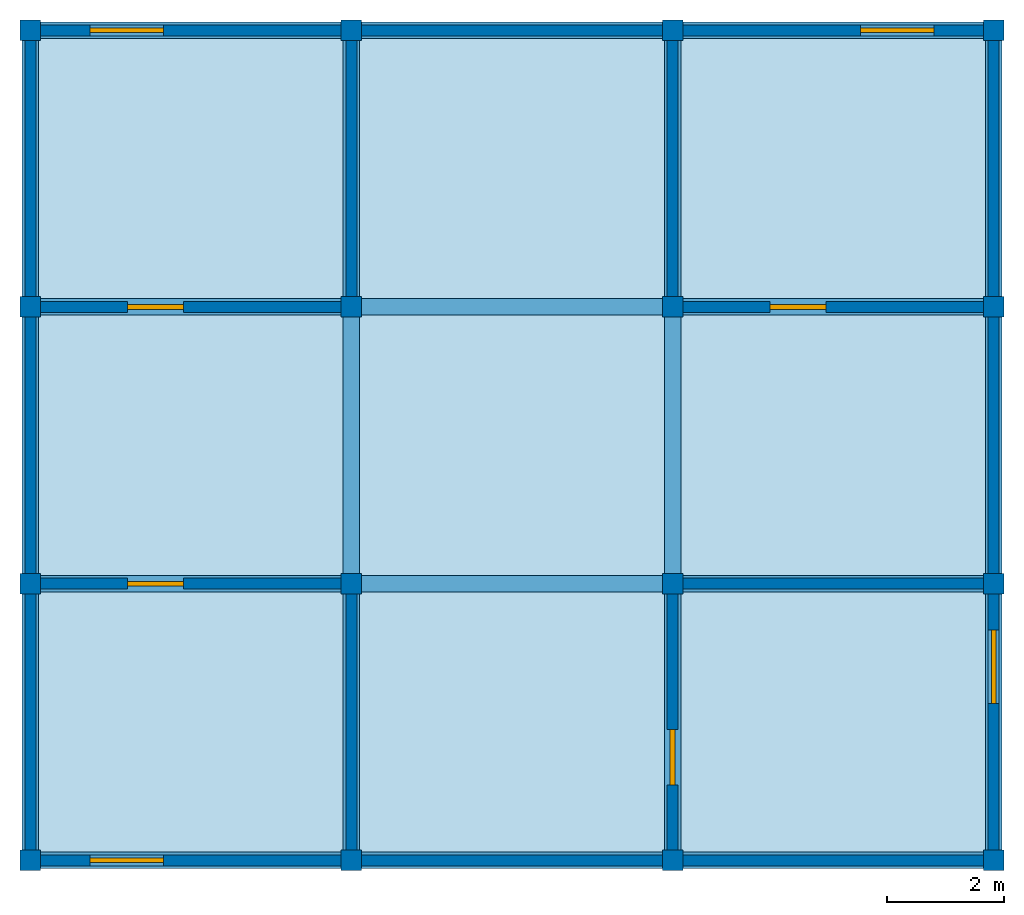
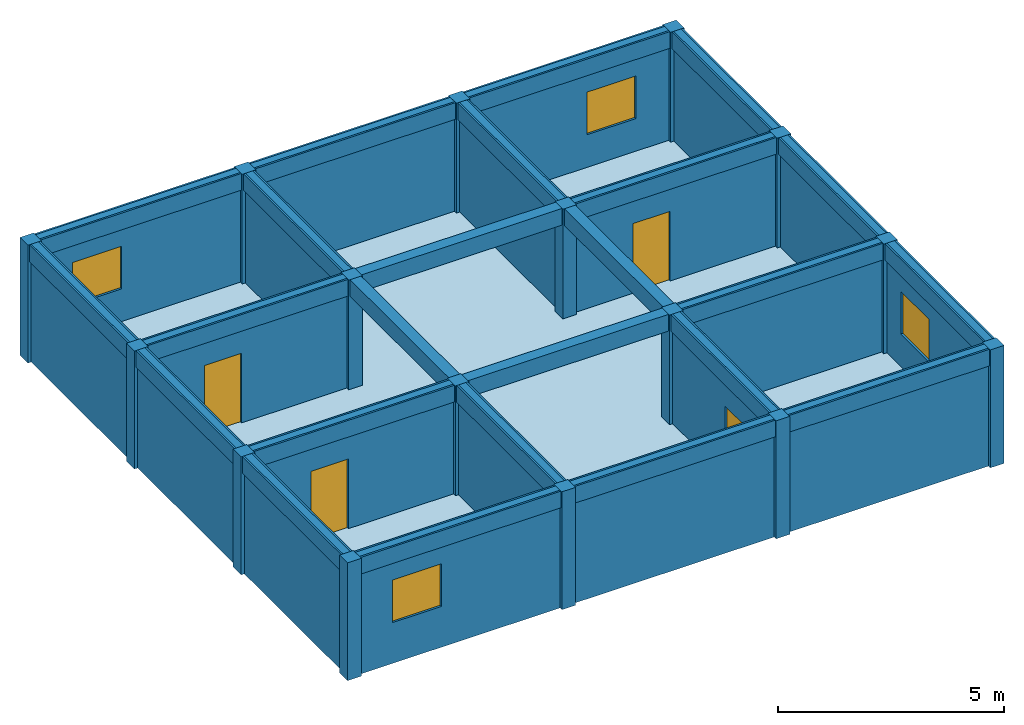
# One storey: 24 beams, 20 walls, 16 columns, 4 doors, 4 windows, 1 slab, 8 openings.
"""IFC4X3 building model written with IfcOpenShell, lengths in metres."""

from ifc_helpers import new_model, si_unit, frame, origin_with_axes, origin_2d, place, context, project, spatial, rectangle, extrude, material, element, fill, save


model = new_model("IFC4X3")

# Units and contexts
model_context = context("Model", 3, precision=1e-05, world=origin_with_axes())
ifc_project = project(units=[si_unit("LENGTHUNIT", "METRE"), si_unit("AREAUNIT", "SQUARE_METRE"), si_unit("VOLUMEUNIT", "CUBIC_METRE")], contexts=[model_context])

# Site, building, storey
site = spatial("IfcSite", under=ifc_project, Name="Antofagasta Parcel", CompositionType="ELEMENT")
building = spatial("IfcBuilding", under=site, Name="Nexo Block", CompositionType="ELEMENT")
storey = spatial("IfcBuildingStorey", under=building, Name="Level 12", CompositionType="ELEMENT", Elevation=34.99)

# Columns
ifc_material_1 = material(Name="Timber")
column_1_placement = place(None, frame((-8.2, -7.065, 34.989), z_axis=(0.0, 0.0, 1.0), x_axis=(1.0, 0.0, 0.0)))
element("IfcColumn", 1, at=column_1_placement, inside=storey, material=ifc_material_1, Name="Column 12.1", ObjectType="Structural Column", PredefinedType="USERDEFINED", context=model_context, shape_type="SweptSolid", body=[
    extrude(rectangle(XDim=0.35, YDim=0.35, at=origin_2d()), origin_with_axes(), (0.0, 0.0, 1.0), 3.181),
])
column_2_placement = place(None, frame((-8.2, -2.355, 34.989), z_axis=(0.0, 0.0, 1.0), x_axis=(1.0, 0.0, 0.0)))
element("IfcColumn", 2, at=column_2_placement, inside=storey, material=ifc_material_1, Name="Column 12.2", ObjectType="Facade Column", PredefinedType="COLUMN", context=model_context, shape_type="SweptSolid", body=[
    extrude(rectangle(XDim=0.35, YDim=0.35, at=origin_2d()), origin_with_axes(), (0.0, 0.0, 1.0), 3.181),
])
column_3_placement = place(None, frame((-8.2, 2.355, 34.989), z_axis=(0.0, 0.0, 1.0), x_axis=(1.0, 0.0, 0.0)))
element("IfcColumn", 3, at=column_3_placement, inside=storey, material=ifc_material_1, Name="Column 12.3", ObjectType="Structural Column", PredefinedType="NOTDEFINED", context=model_context, shape_type="SweptSolid", body=[
    extrude(rectangle(XDim=0.35, YDim=0.35, at=origin_2d()), origin_with_axes(), (0.0, 0.0, 1.0), 3.181),
])
column_4_placement = place(None, frame((-8.2, 7.065, 34.989), z_axis=(0.0, 0.0, 1.0), x_axis=(1.0, 0.0, 0.0)))
element("IfcColumn", 4, at=column_4_placement, inside=storey, material=ifc_material_1, Name="Column 12.4", ObjectType="Facade Column", PredefinedType="PILASTER", context=model_context, shape_type="SweptSolid", body=[
    extrude(rectangle(XDim=0.35, YDim=0.35, at=origin_2d()), origin_with_axes(), (0.0, 0.0, 1.0), 3.181),
])
column_5_placement = place(None, frame((-2.733, -7.065, 34.989), z_axis=(0.0, 0.0, 1.0), x_axis=(1.0, 0.0, 0.0)))
element("IfcColumn", 5, at=column_5_placement, inside=storey, material=ifc_material_1, Name="Column 12.5", ObjectType="Core Column", PredefinedType="PILASTER", context=model_context, shape_type="SweptSolid", body=[
    extrude(rectangle(XDim=0.35, YDim=0.35, at=origin_2d()), origin_with_axes(), (0.0, 0.0, 1.0), 3.181),
])
column_6_placement = place(None, frame((-2.733, -2.355, 34.989), z_axis=(0.0, 0.0, 1.0), x_axis=(1.0, 0.0, 0.0)))
element("IfcColumn", 6, at=column_6_placement, inside=storey, material=ifc_material_1, Name="Column 12.6", ObjectType="Core Column", PredefinedType="USERDEFINED", context=model_context, shape_type="SweptSolid", body=[
    extrude(rectangle(XDim=0.35, YDim=0.35, at=origin_2d()), origin_with_axes(), (0.0, 0.0, 1.0), 3.181),
])
column_7_placement = place(None, frame((-2.733, 2.355, 34.989), z_axis=(0.0, 0.0, 1.0), x_axis=(1.0, 0.0, 0.0)))
element("IfcColumn", 7, at=column_7_placement, inside=storey, material=ifc_material_1, Name="Column 12.7", ObjectType="Core Column", PredefinedType="PILASTER", context=model_context, shape_type="SweptSolid", body=[
    extrude(rectangle(XDim=0.35, YDim=0.35, at=origin_2d()), origin_with_axes(), (0.0, 0.0, 1.0), 3.181),
])
column_8_placement = place(None, frame((-2.733, 7.065, 34.989), z_axis=(0.0, 0.0, 1.0), x_axis=(1.0, 0.0, 0.0)))
element("IfcColumn", 8, at=column_8_placement, inside=storey, material=ifc_material_1, Name="Column 12.8", ObjectType="Facade Column", PredefinedType="NOTDEFINED", context=model_context, shape_type="SweptSolid", body=[
    extrude(rectangle(XDim=0.35, YDim=0.35, at=origin_2d()), origin_with_axes(), (0.0, 0.0, 1.0), 3.181),
])
column_9_placement = place(None, frame((2.734, -7.065, 34.989), z_axis=(0.0, 0.0, 1.0), x_axis=(1.0, 0.0, 0.0)))
element("IfcColumn", 9, at=column_9_placement, inside=storey, material=ifc_material_1, Name="Column 12.9", ObjectType="Core Column", PredefinedType="COLUMN", context=model_context, shape_type="SweptSolid", body=[
    extrude(rectangle(XDim=0.35, YDim=0.35, at=origin_2d()), origin_with_axes(), (0.0, 0.0, 1.0), 3.181),
])
column_10_placement = place(None, frame((2.734, -2.355, 34.989), z_axis=(0.0, 0.0, 1.0), x_axis=(1.0, 0.0, 0.0)))
element("IfcColumn", 10, at=column_10_placement, inside=storey, material=ifc_material_1, Name="Column 12.10", ObjectType="Facade Column", PredefinedType="USERDEFINED", context=model_context, shape_type="SweptSolid", body=[
    extrude(rectangle(XDim=0.35, YDim=0.35, at=origin_2d()), origin_with_axes(), (0.0, 0.0, 1.0), 3.181),
])
column_11_placement = place(None, frame((2.734, 2.355, 34.989), z_axis=(0.0, 0.0, 1.0), x_axis=(1.0, 0.0, 0.0)))
element("IfcColumn", 11, at=column_11_placement, inside=storey, material=ifc_material_1, Name="Column 12.11", ObjectType="Corner Column", PredefinedType="NOTDEFINED", context=model_context, shape_type="SweptSolid", body=[
    extrude(rectangle(XDim=0.35, YDim=0.35, at=origin_2d()), origin_with_axes(), (0.0, 0.0, 1.0), 3.181),
])
column_12_placement = place(None, frame((2.734, 7.065, 34.989), z_axis=(0.0, 0.0, 1.0), x_axis=(1.0, 0.0, 0.0)))
element("IfcColumn", 12, at=column_12_placement, inside=storey, material=ifc_material_1, Name="Column 12.12", ObjectType="Core Column", PredefinedType="NOTDEFINED", context=model_context, shape_type="SweptSolid", body=[
    extrude(rectangle(XDim=0.35, YDim=0.35, at=origin_2d()), origin_with_axes(), (0.0, 0.0, 1.0), 3.181),
])
column_13_placement = place(None, frame((8.201, -7.065, 34.989), z_axis=(0.0, 0.0, 1.0), x_axis=(1.0, 0.0, 0.0)))
element("IfcColumn", 13, at=column_13_placement, inside=storey, material=ifc_material_1, Name="Column 12.13", ObjectType="Structural Column", PredefinedType="USERDEFINED", context=model_context, shape_type="SweptSolid", body=[
    extrude(rectangle(XDim=0.35, YDim=0.35, at=origin_2d()), origin_with_axes(), (0.0, 0.0, 1.0), 3.181),
])
column_14_placement = place(None, frame((8.201, -2.355, 34.989), z_axis=(0.0, 0.0, 1.0), x_axis=(1.0, 0.0, 0.0)))
element("IfcColumn", 14, at=column_14_placement, inside=storey, material=ifc_material_1, Name="Column 12.14", ObjectType="Facade Column", PredefinedType="USERDEFINED", context=model_context, shape_type="SweptSolid", body=[
    extrude(rectangle(XDim=0.35, YDim=0.35, at=origin_2d()), origin_with_axes(), (0.0, 0.0, 1.0), 3.181),
])
column_15_placement = place(None, frame((8.201, 2.355, 34.989), z_axis=(0.0, 0.0, 1.0), x_axis=(1.0, 0.0, 0.0)))
element("IfcColumn", 15, at=column_15_placement, inside=storey, material=ifc_material_1, Name="Column 12.15", ObjectType="Structural Column", PredefinedType="NOTDEFINED", context=model_context, shape_type="SweptSolid", body=[
    extrude(rectangle(XDim=0.35, YDim=0.35, at=origin_2d()), origin_with_axes(), (0.0, 0.0, 1.0), 3.181),
])
column_16_placement = place(None, frame((8.201, 7.065, 34.989), z_axis=(0.0, 0.0, 1.0), x_axis=(1.0, 0.0, 0.0)))
element("IfcColumn", 16, at=column_16_placement, inside=storey, material=ifc_material_1, Name="Column 12.16", ObjectType="Facade Column", PredefinedType="COLUMN", context=model_context, shape_type="SweptSolid", body=[
    extrude(rectangle(XDim=0.35, YDim=0.35, at=origin_2d()), origin_with_axes(), (0.0, 0.0, 1.0), 3.181),
])

# Beams
ifc_material_2 = material(Name="Concrete")
beam_1_placement = place(None, frame((-5.466, -7.065, 37.72), z_axis=(0.0, 0.0, 1.0), x_axis=(1.0, 0.0, 0.0)))
element("IfcBeam", 17, at=beam_1_placement, inside=storey, material=ifc_material_2, Name="Beam 12.1", ObjectType="Ridge Beam", PredefinedType="HOLLOWCORE", context=model_context, shape_type="SweptSolid", body=[
    extrude(rectangle(XDim=5.467, YDim=0.28, at=origin_2d()), origin_with_axes(), (0.0, 0.0, 1.0), 0.45),
])
beam_2_placement = place(None, frame((0.0, -7.065, 37.72), z_axis=(0.0, 0.0, 1.0), x_axis=(1.0, 0.0, 0.0)))
element("IfcBeam", 18, at=beam_2_placement, inside=storey, material=ifc_material_2, Name="Beam 12.2", ObjectType="Transfer Beam", PredefinedType="NOTDEFINED", context=model_context, shape_type="SweptSolid", body=[
    extrude(rectangle(XDim=5.467, YDim=0.28, at=origin_2d()), origin_with_axes(), (0.0, 0.0, 1.0), 0.45),
])
beam_3_placement = place(None, frame((5.468, -7.065, 37.72), z_axis=(0.0, 0.0, 1.0), x_axis=(1.0, 0.0, 0.0)))
element("IfcBeam", 19, at=beam_3_placement, inside=storey, material=ifc_material_2, Name="Beam 12.3", ObjectType="Ridge Beam", PredefinedType="SPANDREL", context=model_context, shape_type="SweptSolid", body=[
    extrude(rectangle(XDim=5.467, YDim=0.28, at=origin_2d()), origin_with_axes(), (0.0, 0.0, 1.0), 0.45),
])
beam_4_placement = place(None, frame((-5.466, -2.355, 37.72), z_axis=(0.0, 0.0, 1.0), x_axis=(1.0, 0.0, 0.0)))
element("IfcBeam", 20, at=beam_4_placement, inside=storey, material=ifc_material_2, Name="Beam 12.4", ObjectType="Primary Beam", PredefinedType="NOTDEFINED", context=model_context, shape_type="SweptSolid", body=[
    extrude(rectangle(XDim=5.467, YDim=0.28, at=origin_2d()), origin_with_axes(), (0.0, 0.0, 1.0), 0.45),
])
beam_5_placement = place(None, frame((0.0, -2.355, 37.72), z_axis=(0.0, 0.0, 1.0), x_axis=(1.0, 0.0, 0.0)))
element("IfcBeam", 21, at=beam_5_placement, inside=storey, material=ifc_material_2, Name="Beam 12.5", ObjectType="Rafter Beam", PredefinedType="USERDEFINED", context=model_context, shape_type="SweptSolid", body=[
    extrude(rectangle(XDim=5.467, YDim=0.28, at=origin_2d()), origin_with_axes(), (0.0, 0.0, 1.0), 0.45),
])
beam_6_placement = place(None, frame((5.468, -2.355, 37.72), z_axis=(0.0, 0.0, 1.0), x_axis=(1.0, 0.0, 0.0)))
element("IfcBeam", 22, at=beam_6_placement, inside=storey, material=ifc_material_2, Name="Beam 12.6", ObjectType="Secondary Beam", PredefinedType="LINTEL", context=model_context, shape_type="SweptSolid", body=[
    extrude(rectangle(XDim=5.467, YDim=0.28, at=origin_2d()), origin_with_axes(), (0.0, 0.0, 1.0), 0.45),
])
beam_7_placement = place(None, frame((-5.466, 2.355, 37.72), z_axis=(0.0, 0.0, 1.0), x_axis=(1.0, 0.0, 0.0)))
element("IfcBeam", 23, at=beam_7_placement, inside=storey, material=ifc_material_2, Name="Beam 12.7", ObjectType="Ridge Beam", PredefinedType="JOIST", context=model_context, shape_type="SweptSolid", body=[
    extrude(rectangle(XDim=5.467, YDim=0.28, at=origin_2d()), origin_with_axes(), (0.0, 0.0, 1.0), 0.45),
])
beam_8_placement = place(None, frame((0.0, 2.355, 37.72), z_axis=(0.0, 0.0, 1.0), x_axis=(1.0, 0.0, 0.0)))
element("IfcBeam", 24, at=beam_8_placement, inside=storey, material=ifc_material_2, Name="Beam 12.8", ObjectType="Rafter Beam", PredefinedType="USERDEFINED", context=model_context, shape_type="SweptSolid", body=[
    extrude(rectangle(XDim=5.467, YDim=0.28, at=origin_2d()), origin_with_axes(), (0.0, 0.0, 1.0), 0.45),
])
beam_9_placement = place(None, frame((5.468, 2.355, 37.72), z_axis=(0.0, 0.0, 1.0), x_axis=(1.0, 0.0, 0.0)))
element("IfcBeam", 25, at=beam_9_placement, inside=storey, material=ifc_material_2, Name="Beam 12.9", ObjectType="Rafter Beam", PredefinedType="NOTDEFINED", context=model_context, shape_type="SweptSolid", body=[
    extrude(rectangle(XDim=5.467, YDim=0.28, at=origin_2d()), origin_with_axes(), (0.0, 0.0, 1.0), 0.45),
])
beam_10_placement = place(None, frame((-5.466, 7.065, 37.72), z_axis=(0.0, 0.0, 1.0), x_axis=(1.0, 0.0, 0.0)))
element("IfcBeam", 26, at=beam_10_placement, inside=storey, material=ifc_material_2, Name="Beam 12.10", ObjectType="Secondary Beam", PredefinedType="NOTDEFINED", context=model_context, shape_type="SweptSolid", body=[
    extrude(rectangle(XDim=5.467, YDim=0.28, at=origin_2d()), origin_with_axes(), (0.0, 0.0, 1.0), 0.45),
])
beam_11_placement = place(None, frame((0.0, 7.065, 37.72), z_axis=(0.0, 0.0, 1.0), x_axis=(1.0, 0.0, 0.0)))
element("IfcBeam", 27, at=beam_11_placement, inside=storey, material=ifc_material_2, Name="Beam 12.11", ObjectType="Primary Beam", PredefinedType="T_BEAM", context=model_context, shape_type="SweptSolid", body=[
    extrude(rectangle(XDim=5.467, YDim=0.28, at=origin_2d()), origin_with_axes(), (0.0, 0.0, 1.0), 0.45),
])
beam_12_placement = place(None, frame((5.468, 7.065, 37.72), z_axis=(0.0, 0.0, 1.0), x_axis=(1.0, 0.0, 0.0)))
element("IfcBeam", 28, at=beam_12_placement, inside=storey, material=ifc_material_2, Name="Beam 12.12", ObjectType="Primary Beam", PredefinedType="SPANDREL", context=model_context, shape_type="SweptSolid", body=[
    extrude(rectangle(XDim=5.467, YDim=0.28, at=origin_2d()), origin_with_axes(), (0.0, 0.0, 1.0), 0.45),
])
beam_13_placement = place(None, frame((-8.2, -4.71, 37.72), z_axis=(0.0, 0.0, 1.0), x_axis=(0.0, 1.0, 0.0)))
element("IfcBeam", 29, at=beam_13_placement, inside=storey, material=ifc_material_2, Name="Beam 12.13", ObjectType="Ridge Beam", PredefinedType="BEAM", context=model_context, shape_type="SweptSolid", body=[
    extrude(rectangle(XDim=4.71, YDim=0.28, at=origin_2d()), origin_with_axes(), (0.0, 0.0, 1.0), 0.45),
])
beam_14_placement = place(None, frame((-8.2, 0.0, 37.72), z_axis=(0.0, 0.0, 1.0), x_axis=(0.0, 1.0, 0.0)))
element("IfcBeam", 30, at=beam_14_placement, inside=storey, material=ifc_material_2, Name="Beam 12.14", ObjectType="Transfer Beam", PredefinedType="LINTEL", context=model_context, shape_type="SweptSolid", body=[
    extrude(rectangle(XDim=4.71, YDim=0.28, at=origin_2d()), origin_with_axes(), (0.0, 0.0, 1.0), 0.45),
])
beam_15_placement = place(None, frame((-8.2, 4.71, 37.72), z_axis=(0.0, 0.0, 1.0), x_axis=(0.0, 1.0, 0.0)))
element("IfcBeam", 31, at=beam_15_placement, inside=storey, material=ifc_material_2, Name="Beam 12.15", ObjectType="Primary Beam", PredefinedType="SPANDREL", context=model_context, shape_type="SweptSolid", body=[
    extrude(rectangle(XDim=4.71, YDim=0.28, at=origin_2d()), origin_with_axes(), (0.0, 0.0, 1.0), 0.45),
])
beam_16_placement = place(None, frame((-2.733, -4.71, 37.72), z_axis=(0.0, 0.0, 1.0), x_axis=(0.0, 1.0, 0.0)))
element("IfcBeam", 32, at=beam_16_placement, inside=storey, material=ifc_material_2, Name="Beam 12.16", ObjectType="Transfer Beam", PredefinedType="NOTDEFINED", context=model_context, shape_type="SweptSolid", body=[
    extrude(rectangle(XDim=4.71, YDim=0.28, at=origin_2d()), origin_with_axes(), (0.0, 0.0, 1.0), 0.45),
])
beam_17_placement = place(None, frame((-2.733, 0.0, 37.72), z_axis=(0.0, 0.0, 1.0), x_axis=(0.0, 1.0, 0.0)))
element("IfcBeam", 33, at=beam_17_placement, inside=storey, material=ifc_material_2, Name="Beam 12.17", ObjectType="Secondary Beam", PredefinedType="NOTDEFINED", context=model_context, shape_type="SweptSolid", body=[
    extrude(rectangle(XDim=4.71, YDim=0.28, at=origin_2d()), origin_with_axes(), (0.0, 0.0, 1.0), 0.45),
])
beam_18_placement = place(None, frame((-2.733, 4.71, 37.72), z_axis=(0.0, 0.0, 1.0), x_axis=(0.0, 1.0, 0.0)))
element("IfcBeam", 34, at=beam_18_placement, inside=storey, material=ifc_material_2, Name="Beam 12.18", ObjectType="Secondary Beam", PredefinedType="BEAM", context=model_context, shape_type="SweptSolid", body=[
    extrude(rectangle(XDim=4.71, YDim=0.28, at=origin_2d()), origin_with_axes(), (0.0, 0.0, 1.0), 0.45),
])
beam_19_placement = place(None, frame((2.734, -4.71, 37.72), z_axis=(0.0, 0.0, 1.0), x_axis=(0.0, 1.0, 0.0)))
element("IfcBeam", 35, at=beam_19_placement, inside=storey, material=ifc_material_2, Name="Beam 12.19", ObjectType="Primary Beam", PredefinedType="LINTEL", context=model_context, shape_type="SweptSolid", body=[
    extrude(rectangle(XDim=4.71, YDim=0.28, at=origin_2d()), origin_with_axes(), (0.0, 0.0, 1.0), 0.45),
])
beam_20_placement = place(None, frame((2.734, 0.0, 37.72), z_axis=(0.0, 0.0, 1.0), x_axis=(0.0, 1.0, 0.0)))
element("IfcBeam", 36, at=beam_20_placement, inside=storey, material=ifc_material_2, Name="Beam 12.20", ObjectType="Primary Beam", PredefinedType="SPANDREL", context=model_context, shape_type="SweptSolid", body=[
    extrude(rectangle(XDim=4.71, YDim=0.28, at=origin_2d()), origin_with_axes(), (0.0, 0.0, 1.0), 0.45),
])
beam_21_placement = place(None, frame((2.734, 4.71, 37.72), z_axis=(0.0, 0.0, 1.0), x_axis=(0.0, 1.0, 0.0)))
element("IfcBeam", 37, at=beam_21_placement, inside=storey, material=ifc_material_2, Name="Beam 12.21", ObjectType="Rafter Beam", PredefinedType="LINTEL", context=model_context, shape_type="SweptSolid", body=[
    extrude(rectangle(XDim=4.71, YDim=0.28, at=origin_2d()), origin_with_axes(), (0.0, 0.0, 1.0), 0.45),
])
beam_22_placement = place(None, frame((8.201, -4.71, 37.72), z_axis=(0.0, 0.0, 1.0), x_axis=(0.0, 1.0, 0.0)))
element("IfcBeam", 38, at=beam_22_placement, inside=storey, material=ifc_material_2, Name="Beam 12.22", ObjectType="Transfer Beam", PredefinedType="BEAM", context=model_context, shape_type="SweptSolid", body=[
    extrude(rectangle(XDim=4.71, YDim=0.28, at=origin_2d()), origin_with_axes(), (0.0, 0.0, 1.0), 0.45),
])
beam_23_placement = place(None, frame((8.201, 0.0, 37.72), z_axis=(0.0, 0.0, 1.0), x_axis=(0.0, 1.0, 0.0)))
element("IfcBeam", 39, at=beam_23_placement, inside=storey, material=ifc_material_2, Name="Beam 12.23", ObjectType="Primary Beam", PredefinedType="HOLLOWCORE", context=model_context, shape_type="SweptSolid", body=[
    extrude(rectangle(XDim=4.71, YDim=0.28, at=origin_2d()), origin_with_axes(), (0.0, 0.0, 1.0), 0.45),
])
beam_24_placement = place(None, frame((8.201, 4.71, 37.72), z_axis=(0.0, 0.0, 1.0), x_axis=(0.0, 1.0, 0.0)))
element("IfcBeam", 40, at=beam_24_placement, inside=storey, material=ifc_material_2, Name="Beam 12.24", ObjectType="Transfer Beam", PredefinedType="USERDEFINED", context=model_context, shape_type="SweptSolid", body=[
    extrude(rectangle(XDim=4.71, YDim=0.28, at=origin_2d()), origin_with_axes(), (0.0, 0.0, 1.0), 0.45),
])

# Slab
ifc_material_3 = material(Name="Composite")
slab_placement = place(None, frame((0.0, 0.0, 34.99), z_axis=(0.0, 0.0, 1.0), x_axis=(1.0, 0.0, 0.0)))
element("IfcSlab", 41, at=slab_placement, inside=storey, material=ifc_material_3, Name="Slab 12", ObjectType="Roof Slab", PredefinedType="ROOF", context=model_context, shape_type="SweptSolid", body=[
    extrude(rectangle(XDim=16.4, YDim=14.13, at=origin_2d()), origin_with_axes(), (0.0, 0.0, 1.0), 0.22),
])

# Wall, opening, door
ifc_material_4 = material(Name="Brick")
wall_1_placement = place(None, frame((-5.466, -2.355, 34.989), z_axis=(0.0, 0.0, 1.0), x_axis=(1.0, 0.0, 0.0)))
wall_1 = element("IfcWall", 42, at=wall_1_placement, inside=storey, material=ifc_material_4, Name="Wall 12.1", ObjectType="Corridor Partition", PredefinedType="ELEMENTEDWALL", context=model_context, shape_type="SweptSolid", body=[
    extrude(rectangle(XDim=5.467, YDim=0.186638, at=origin_2d()), origin_with_axes(), (0.0, 0.0, 1.0), 3.181),
])
opening_1_placement = place(None, frame((-6.066, -2.355, 34.989), z_axis=(0.0, 0.0, 1.0), x_axis=(1.0, 0.0, 0.0)))
opening_1 = element("IfcOpeningElement", 43, at=opening_1_placement, cuts=wall_1, Name="Door opening 12.1", ObjectType="Door Opening", PredefinedType="OPENING", context=model_context, shape_type="SweptSolid", body=[
    extrude(rectangle(XDim=0.95, YDim=0.266638, at=origin_2d()), origin_with_axes(), (0.0, 0.0, 1.0), 2.1),
])
door_1_placement = place(None, frame((-6.066, -2.355, 34.989), z_axis=(0.0, 0.0, 1.0), x_axis=(1.0, 0.0, 0.0)))
door_1 = element("IfcDoor", 44, at=door_1_placement, inside=storey, Name="Door 12.1", ObjectType="Fire Door", OverallHeight=2.1, OverallWidth=0.95, context=model_context, shape_type="SweptSolid", body=[
    extrude(rectangle(XDim=0.95, YDim=0.08, at=origin_2d()), origin_with_axes(), (0.0, 0.0, 1.0), 2.1),
])
fill(opening_1, door_1)

# Wall
ifc_material_5 = material(Name="Gypsum")
wall_2_placement = place(None, frame((-2.7325, -4.71, 34.989), z_axis=(0.0, 0.0, 1.0), x_axis=(0.0, 1.0, 0.0)))
element("IfcWall", 45, at=wall_2_placement, inside=storey, material=ifc_material_5, Name="Wall 12.2", ObjectType="Corridor Partition", PredefinedType="MOVABLE", context=model_context, shape_type="SweptSolid", body=[
    extrude(rectangle(XDim=4.71, YDim=0.186638, at=origin_2d()), origin_with_axes(), (0.0, 0.0, 1.0), 3.181),
])

# Wall, opening, window
wall_3_placement = place(None, frame((-5.466, -7.065, 34.989), z_axis=(0.0, 0.0, 1.0), x_axis=(1.0, 0.0, 0.0)))
wall_3 = element("IfcWall", 46, at=wall_3_placement, inside=storey, material=ifc_material_4, Name="Wall 12.3", ObjectType="Exterior Wall", PredefinedType="PARTITIONING", context=model_context, shape_type="SweptSolid", body=[
    extrude(rectangle(XDim=5.467, YDim=0.186638, at=origin_2d()), origin_with_axes(), (0.0, 0.0, 1.0), 3.181),
])
opening_2_placement = place(None, frame((-6.559, -7.065, 36.089), z_axis=(0.0, 0.0, 1.0), x_axis=(1.0, 0.0, 0.0)))
opening_2 = element("IfcOpeningElement", 47, at=opening_2_placement, cuts=wall_3, Name="Window opening 12.2", ObjectType="Window Opening", PredefinedType="OPENING", context=model_context, shape_type="SweptSolid", body=[
    extrude(rectangle(XDim=1.25, YDim=0.266638, at=origin_2d()), origin_with_axes(), (0.0, 0.0, 1.0), 1.15),
])
window_1_placement = place(None, frame((-6.559, -7.065, 36.089), z_axis=(0.0, 0.0, 1.0), x_axis=(1.0, 0.0, 0.0)))
window_1 = element("IfcWindow", 48, at=window_1_placement, inside=storey, Name="Window 12.2", ObjectType="Fixed Window", OverallHeight=1.15, OverallWidth=1.25, context=model_context, shape_type="SweptSolid", body=[
    extrude(rectangle(XDim=1.25, YDim=0.08, at=origin_2d()), origin_with_axes(), (0.0, 0.0, 1.0), 1.15),
])
fill(opening_2, window_1)

# Wall
wall_4_placement = place(None, frame((-8.1995, -4.71, 34.989), z_axis=(0.0, 0.0, 1.0), x_axis=(0.0, 1.0, 0.0)))
element("IfcWall", 49, at=wall_4_placement, inside=storey, material=ifc_material_2, Name="Wall 12.4", ObjectType="Exterior Wall", PredefinedType="MOVABLE", context=model_context, shape_type="SweptSolid", body=[
    extrude(rectangle(XDim=4.71, YDim=0.186638, at=origin_2d()), origin_with_axes(), (0.0, 0.0, 1.0), 3.181),
])

# Wall, opening, door
wall_5_placement = place(None, frame((2.7335, -4.71, 34.989), z_axis=(0.0, 0.0, 1.0), x_axis=(0.0, 1.0, 0.0)))
wall_5 = element("IfcWall", 50, at=wall_5_placement, inside=storey, material=ifc_material_4, Name="Wall 12.5", ObjectType="Corridor Partition", PredefinedType="MOVABLE", context=model_context, shape_type="SweptSolid", body=[
    extrude(rectangle(XDim=4.71, YDim=0.186638, at=origin_2d()), origin_with_axes(), (0.0, 0.0, 1.0), 3.181),
])
opening_3_placement = place(None, frame((2.733, -5.31, 34.989), z_axis=(0.0, 0.0, 1.0), x_axis=(0.0, 1.0, 0.0)))
opening_3 = element("IfcOpeningElement", 51, at=opening_3_placement, cuts=wall_5, Name="Door opening 12.3", ObjectType="Door Opening", PredefinedType="OPENING", context=model_context, shape_type="SweptSolid", body=[
    extrude(rectangle(XDim=0.95, YDim=0.266638, at=origin_2d()), origin_with_axes(), (0.0, 0.0, 1.0), 2.1),
])
door_2_placement = place(None, frame((2.733, -5.31, 34.989), z_axis=(0.0, 0.0, 1.0), x_axis=(0.0, 1.0, 0.0)))
door_2 = element("IfcDoor", 52, at=door_2_placement, inside=storey, Name="Door 12.3", ObjectType="Fire Door", OverallHeight=2.1, OverallWidth=0.95, context=model_context, shape_type="SweptSolid", body=[
    extrude(rectangle(XDim=0.95, YDim=0.08, at=origin_2d()), origin_with_axes(), (0.0, 0.0, 1.0), 2.1),
])
fill(opening_3, door_2)

# Walls
wall_6_placement = place(None, frame((0.0, -7.065, 34.989), z_axis=(0.0, 0.0, 1.0), x_axis=(1.0, 0.0, 0.0)))
element("IfcWall", 53, at=wall_6_placement, inside=storey, material=ifc_material_5, Name="Wall 12.6", ObjectType="Exterior Wall", PredefinedType="SOLIDWALL", context=model_context, shape_type="SweptSolid", body=[
    extrude(rectangle(XDim=5.467, YDim=0.186638, at=origin_2d()), origin_with_axes(), (0.0, 0.0, 1.0), 3.181),
])
ifc_material_6 = material(Name="CLT")
wall_7_placement = place(None, frame((5.467, -2.355, 34.989), z_axis=(0.0, 0.0, 1.0), x_axis=(1.0, 0.0, 0.0)))
element("IfcWall", 54, at=wall_7_placement, inside=storey, material=ifc_material_6, Name="Wall 12.7", ObjectType="Corridor Partition", PredefinedType="ELEMENTEDWALL", context=model_context, shape_type="SweptSolid", body=[
    extrude(rectangle(XDim=5.467, YDim=0.186638, at=origin_2d()), origin_with_axes(), (0.0, 0.0, 1.0), 3.181),
])

# Wall, opening, window
wall_8_placement = place(None, frame((8.2005, -4.71, 34.989), z_axis=(0.0, 0.0, 1.0), x_axis=(0.0, 1.0, 0.0)))
wall_8 = element("IfcWall", 55, at=wall_8_placement, inside=storey, material=ifc_material_4, Name="Wall 12.8", ObjectType="Exterior Wall", PredefinedType="STANDARD", context=model_context, shape_type="SweptSolid", body=[
    extrude(rectangle(XDim=4.71, YDim=0.186638, at=origin_2d()), origin_with_axes(), (0.0, 0.0, 1.0), 3.181),
])
opening_4_placement = place(None, frame((8.2, -3.768, 36.089), z_axis=(0.0, 0.0, 1.0), x_axis=(0.0, 1.0, 0.0)))
opening_4 = element("IfcOpeningElement", 56, at=opening_4_placement, cuts=wall_8, Name="Window opening 12.4", ObjectType="Window Opening", PredefinedType="OPENING", context=model_context, shape_type="SweptSolid", body=[
    extrude(rectangle(XDim=1.25, YDim=0.266638, at=origin_2d()), origin_with_axes(), (0.0, 0.0, 1.0), 1.15),
])
window_2_placement = place(None, frame((8.2, -3.768, 36.089), z_axis=(0.0, 0.0, 1.0), x_axis=(0.0, 1.0, 0.0)))
window_2 = element("IfcWindow", 57, at=window_2_placement, inside=storey, Name="Window 12.4", ObjectType="Sliding Window", OverallHeight=1.15, OverallWidth=1.25, context=model_context, shape_type="SweptSolid", body=[
    extrude(rectangle(XDim=1.25, YDim=0.08, at=origin_2d()), origin_with_axes(), (0.0, 0.0, 1.0), 1.15),
])
fill(opening_4, window_2)

# Wall
wall_9_placement = place(None, frame((5.467, -7.065, 34.989), z_axis=(0.0, 0.0, 1.0), x_axis=(1.0, 0.0, 0.0)))
element("IfcWall", 58, at=wall_9_placement, inside=storey, material=ifc_material_2, Name="Wall 12.9", ObjectType="Exterior Wall", PredefinedType="SHEAR", context=model_context, shape_type="SweptSolid", body=[
    extrude(rectangle(XDim=5.467, YDim=0.186638, at=origin_2d()), origin_with_axes(), (0.0, 0.0, 1.0), 3.181),
])

# Wall, opening, door
wall_10_placement = place(None, frame((-5.466, 2.355, 34.989), z_axis=(0.0, 0.0, 1.0), x_axis=(1.0, 0.0, 0.0)))
wall_10 = element("IfcWall", 59, at=wall_10_placement, inside=storey, material=ifc_material_4, Name="Wall 12.10", ObjectType="Corridor Partition", PredefinedType="MOVABLE", context=model_context, shape_type="SweptSolid", body=[
    extrude(rectangle(XDim=5.467, YDim=0.186638, at=origin_2d()), origin_with_axes(), (0.0, 0.0, 1.0), 3.181),
])
opening_5_placement = place(None, frame((-6.066, 2.355, 34.989), z_axis=(0.0, 0.0, 1.0), x_axis=(1.0, 0.0, 0.0)))
opening_5 = element("IfcOpeningElement", 60, at=opening_5_placement, cuts=wall_10, Name="Door opening 12.5", ObjectType="Door Opening", PredefinedType="OPENING", context=model_context, shape_type="SweptSolid", body=[
    extrude(rectangle(XDim=0.95, YDim=0.266638, at=origin_2d()), origin_with_axes(), (0.0, 0.0, 1.0), 2.1),
])
door_3_placement = place(None, frame((-6.066, 2.355, 34.989), z_axis=(0.0, 0.0, 1.0), x_axis=(1.0, 0.0, 0.0)))
door_3 = element("IfcDoor", 61, at=door_3_placement, inside=storey, Name="Door 12.5", ObjectType="Interior Door", OverallHeight=2.1, OverallWidth=0.95, context=model_context, shape_type="SweptSolid", body=[
    extrude(rectangle(XDim=0.95, YDim=0.08, at=origin_2d()), origin_with_axes(), (0.0, 0.0, 1.0), 2.1),
])
fill(opening_5, door_3)

# Wall
wall_11_placement = place(None, frame((-8.1995, 0.0, 34.989), z_axis=(0.0, 0.0, 1.0), x_axis=(0.0, 1.0, 0.0)))
element("IfcWall", 62, at=wall_11_placement, inside=storey, material=ifc_material_2, Name="Wall 12.11", ObjectType="Exterior Wall", PredefinedType="SHEAR", context=model_context, shape_type="SweptSolid", body=[
    extrude(rectangle(XDim=4.71, YDim=0.186638, at=origin_2d()), origin_with_axes(), (0.0, 0.0, 1.0), 3.181),
])

# Wall, opening, door
wall_12_placement = place(None, frame((5.467, 2.355, 34.989), z_axis=(0.0, 0.0, 1.0), x_axis=(1.0, 0.0, 0.0)))
wall_12 = element("IfcWall", 63, at=wall_12_placement, inside=storey, material=ifc_material_5, Name="Wall 12.12", ObjectType="Corridor Partition", PredefinedType="SHEAR", context=model_context, shape_type="SweptSolid", body=[
    extrude(rectangle(XDim=5.467, YDim=0.186638, at=origin_2d()), origin_with_axes(), (0.0, 0.0, 1.0), 3.181),
])
opening_6_placement = place(None, frame((4.867, 2.355, 34.989), z_axis=(0.0, 0.0, 1.0), x_axis=(1.0, 0.0, 0.0)))
opening_6 = element("IfcOpeningElement", 64, at=opening_6_placement, cuts=wall_12, Name="Door opening 12.7", ObjectType="Door Opening", PredefinedType="OPENING", context=model_context, shape_type="SweptSolid", body=[
    extrude(rectangle(XDim=0.95, YDim=0.266638, at=origin_2d()), origin_with_axes(), (0.0, 0.0, 1.0), 2.1),
])
door_4_placement = place(None, frame((4.867, 2.355, 34.989), z_axis=(0.0, 0.0, 1.0), x_axis=(1.0, 0.0, 0.0)))
door_4 = element("IfcDoor", 65, at=door_4_placement, inside=storey, Name="Door 12.7", ObjectType="Entry Door", OverallHeight=2.1, OverallWidth=0.95, context=model_context, shape_type="SweptSolid", body=[
    extrude(rectangle(XDim=0.95, YDim=0.08, at=origin_2d()), origin_with_axes(), (0.0, 0.0, 1.0), 2.1),
])
fill(opening_6, door_4)

# Wall
wall_13_placement = place(None, frame((8.2005, 0.0, 34.989), z_axis=(0.0, 0.0, 1.0), x_axis=(0.0, 1.0, 0.0)))
element("IfcWall", 66, at=wall_13_placement, inside=storey, material=ifc_material_2, Name="Wall 12.13", ObjectType="Exterior Wall", PredefinedType="STANDARD", context=model_context, shape_type="SweptSolid", body=[
    extrude(rectangle(XDim=4.71, YDim=0.186638, at=origin_2d()), origin_with_axes(), (0.0, 0.0, 1.0), 3.181),
])

# Wall, opening, window
wall_14_placement = place(None, frame((-5.466, 7.065, 34.989), z_axis=(0.0, 0.0, 1.0), x_axis=(1.0, 0.0, 0.0)))
wall_14 = element("IfcWall", 67, at=wall_14_placement, inside=storey, material=ifc_material_5, Name="Wall 12.14", ObjectType="Exterior Wall", PredefinedType="NOTDEFINED", context=model_context, shape_type="SweptSolid", body=[
    extrude(rectangle(XDim=5.467, YDim=0.186638, at=origin_2d()), origin_with_axes(), (0.0, 0.0, 1.0), 3.181),
])
opening_7_placement = place(None, frame((-6.559, 7.065, 36.089), z_axis=(0.0, 0.0, 1.0), x_axis=(1.0, 0.0, 0.0)))
opening_7 = element("IfcOpeningElement", 68, at=opening_7_placement, cuts=wall_14, Name="Window opening 12.6", ObjectType="Window Opening", PredefinedType="OPENING", context=model_context, shape_type="SweptSolid", body=[
    extrude(rectangle(XDim=1.25, YDim=0.266638, at=origin_2d()), origin_with_axes(), (0.0, 0.0, 1.0), 1.15),
])
window_3_placement = place(None, frame((-6.559, 7.065, 36.089), z_axis=(0.0, 0.0, 1.0), x_axis=(1.0, 0.0, 0.0)))
window_3 = element("IfcWindow", 69, at=window_3_placement, inside=storey, Name="Window 12.6", ObjectType="Louvre Window", OverallHeight=1.15, OverallWidth=1.25, context=model_context, shape_type="SweptSolid", body=[
    extrude(rectangle(XDim=1.25, YDim=0.08, at=origin_2d()), origin_with_axes(), (0.0, 0.0, 1.0), 1.15),
])
fill(opening_7, window_3)

# Walls
wall_15_placement = place(None, frame((-2.7325, 4.71, 34.989), z_axis=(0.0, 0.0, 1.0), x_axis=(0.0, 1.0, 0.0)))
element("IfcWall", 70, at=wall_15_placement, inside=storey, material=ifc_material_2, Name="Wall 12.15", ObjectType="Corridor Partition", PredefinedType="USERDEFINED", context=model_context, shape_type="SweptSolid", body=[
    extrude(rectangle(XDim=4.71, YDim=0.186638, at=origin_2d()), origin_with_axes(), (0.0, 0.0, 1.0), 3.181),
])
wall_16_placement = place(None, frame((-8.1995, 4.71, 34.989), z_axis=(0.0, 0.0, 1.0), x_axis=(0.0, 1.0, 0.0)))
element("IfcWall", 71, at=wall_16_placement, inside=storey, material=ifc_material_4, Name="Wall 12.16", ObjectType="Exterior Wall", PredefinedType="MOVABLE", context=model_context, shape_type="SweptSolid", body=[
    extrude(rectangle(XDim=4.71, YDim=0.186638, at=origin_2d()), origin_with_axes(), (0.0, 0.0, 1.0), 3.181),
])
wall_17_placement = place(None, frame((0.0, 7.065, 34.989), z_axis=(0.0, 0.0, 1.0), x_axis=(1.0, 0.0, 0.0)))
element("IfcWall", 72, at=wall_17_placement, inside=storey, material=ifc_material_5, Name="Wall 12.17", ObjectType="Exterior Wall", PredefinedType="PARAPET", context=model_context, shape_type="SweptSolid", body=[
    extrude(rectangle(XDim=5.467, YDim=0.186638, at=origin_2d()), origin_with_axes(), (0.0, 0.0, 1.0), 3.181),
])
wall_18_placement = place(None, frame((2.7335, 4.71, 34.989), z_axis=(0.0, 0.0, 1.0), x_axis=(0.0, 1.0, 0.0)))
element("IfcWall", 73, at=wall_18_placement, inside=storey, material=ifc_material_2, Name="Wall 12.18", ObjectType="Corridor Partition", PredefinedType="SHEAR", context=model_context, shape_type="SweptSolid", body=[
    extrude(rectangle(XDim=4.71, YDim=0.186638, at=origin_2d()), origin_with_axes(), (0.0, 0.0, 1.0), 3.181),
])

# Wall, opening, window
wall_19_placement = place(None, frame((5.467, 7.065, 34.989), z_axis=(0.0, 0.0, 1.0), x_axis=(1.0, 0.0, 0.0)))
wall_19 = element("IfcWall", 74, at=wall_19_placement, inside=storey, material=ifc_material_5, Name="Wall 12.19", ObjectType="Exterior Wall", PredefinedType="SHEAR", context=model_context, shape_type="SweptSolid", body=[
    extrude(rectangle(XDim=5.467, YDim=0.186638, at=origin_2d()), origin_with_axes(), (0.0, 0.0, 1.0), 3.181),
])
opening_8_placement = place(None, frame((6.56, 7.065, 36.089), z_axis=(0.0, 0.0, 1.0), x_axis=(1.0, 0.0, 0.0)))
opening_8 = element("IfcOpeningElement", 75, at=opening_8_placement, cuts=wall_19, Name="Window opening 12.8", ObjectType="Window Opening", PredefinedType="OPENING", context=model_context, shape_type="SweptSolid", body=[
    extrude(rectangle(XDim=1.25, YDim=0.266638, at=origin_2d()), origin_with_axes(), (0.0, 0.0, 1.0), 1.15),
])
window_4_placement = place(None, frame((6.56, 7.065, 36.089), z_axis=(0.0, 0.0, 1.0), x_axis=(1.0, 0.0, 0.0)))
window_4 = element("IfcWindow", 76, at=window_4_placement, inside=storey, Name="Window 12.8", ObjectType="Fixed Window", OverallHeight=1.15, OverallWidth=1.25, context=model_context, shape_type="SweptSolid", body=[
    extrude(rectangle(XDim=1.25, YDim=0.08, at=origin_2d()), origin_with_axes(), (0.0, 0.0, 1.0), 1.15),
])
fill(opening_8, window_4)

# Wall
wall_20_placement = place(None, frame((8.2005, 4.71, 34.989), z_axis=(0.0, 0.0, 1.0), x_axis=(0.0, 1.0, 0.0)))
element("IfcWall", 77, at=wall_20_placement, inside=storey, material=ifc_material_2, Name="Wall 12.20", ObjectType="Exterior Wall", PredefinedType="STANDARD", context=model_context, shape_type="SweptSolid", body=[
    extrude(rectangle(XDim=4.71, YDim=0.186638, at=origin_2d()), origin_with_axes(), (0.0, 0.0, 1.0), 3.181),
])

save(model, "model.ifc")
